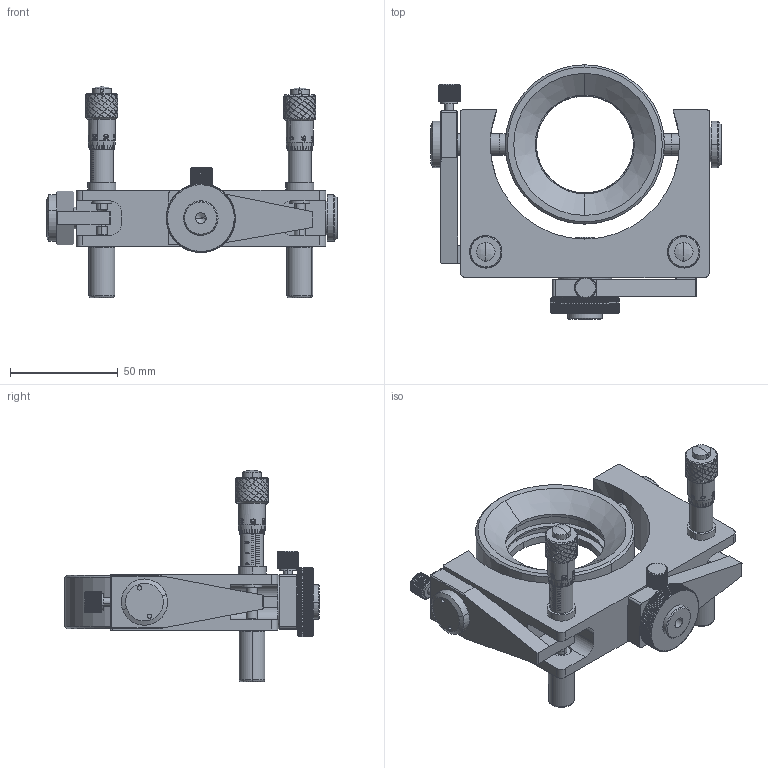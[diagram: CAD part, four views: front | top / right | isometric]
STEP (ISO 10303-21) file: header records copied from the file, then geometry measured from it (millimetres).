
FILE_DESCRIPTION (( 'STEP AP203' ), '1' );
FILE_NAME ('GMM-2.STEP', '2016-11-29T06:17:38', ( '' ), ( '' ), 'SwSTEP 2.0', 'SolidWorks 2012', '' );
FILE_SCHEMA (( 'CONFIG_CONTROL_DESIGN' ));
Products named in the file (1): GMM-2
Bounding box: 135.2 x 118.2 x 98.25 mm (x, y, z)
Volume: 207079.3 mm3; surface area: 84708.3 mm2
Topology: 45 solids, 45 shells, 3103 faces, 8740 edges, 5779 vertices
Faces by surface type: plane 1406, bspline 826, cylinder 735, cone 116, sphere 12, torus 8
Entity records: 170892 total; most frequent: CARTESIAN_POINT 100110, ORIENTED_EDGE 17460, DIRECTION 11254, EDGE_CURVE 8730, VERTEX_POINT 5779, AXIS2_PLACEMENT_3D 4026, EDGE_LOOP 3433, LINE 3202
